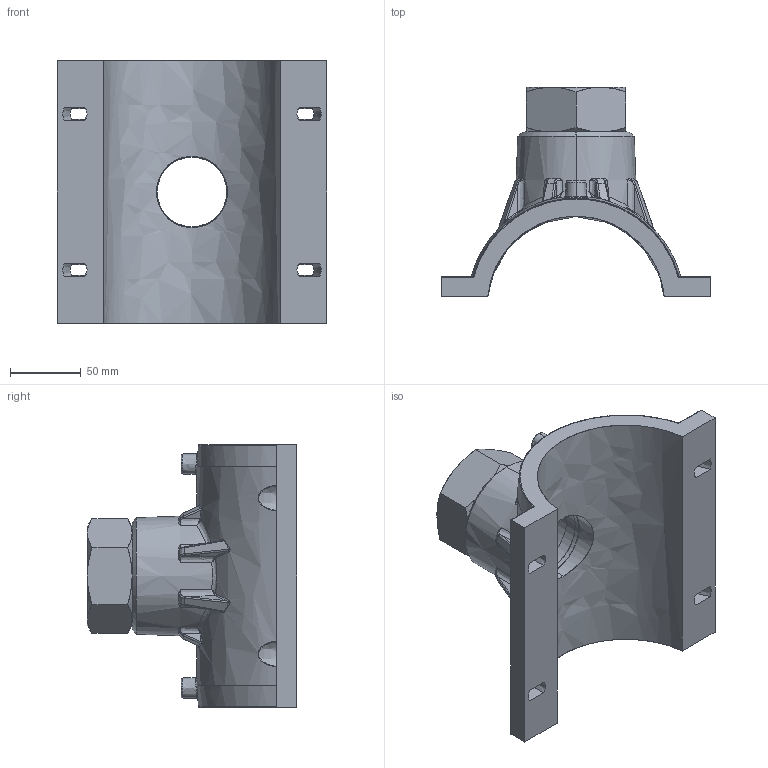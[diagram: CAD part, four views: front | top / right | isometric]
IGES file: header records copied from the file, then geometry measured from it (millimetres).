
Start section:  PTC IGES file: vam-rg_d125_2_01.igs
Global section: file name: vam-rg_d125_2_01.igs; native system: Pro/ENGINEER by Parametric Technology Corporation; preprocessor: 2011490; author: mtunjic; organization: Unknown; date: 20130909.105200; units: millimetre
Bounding box: 190 x 147.5 x 185 mm (x, y, z)
Surface area: 144146.5 mm2 (no closed solid volume)
Topology: 0 solids, 0 shells, 485 faces, 2416 edges, 2416 vertices
Faces by surface type: bspline 485
